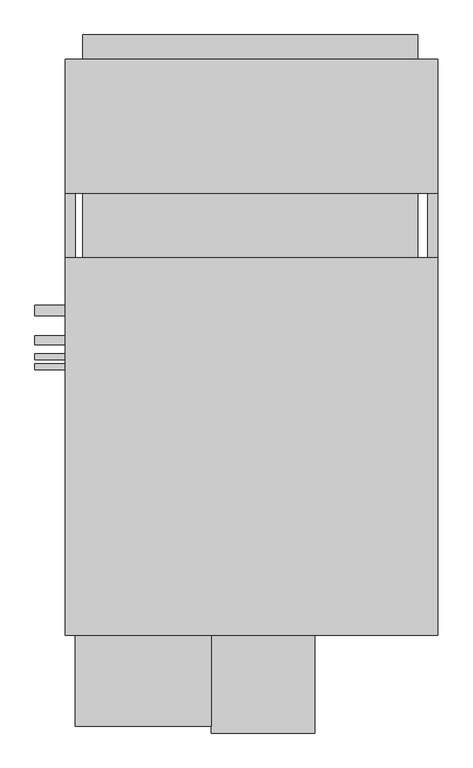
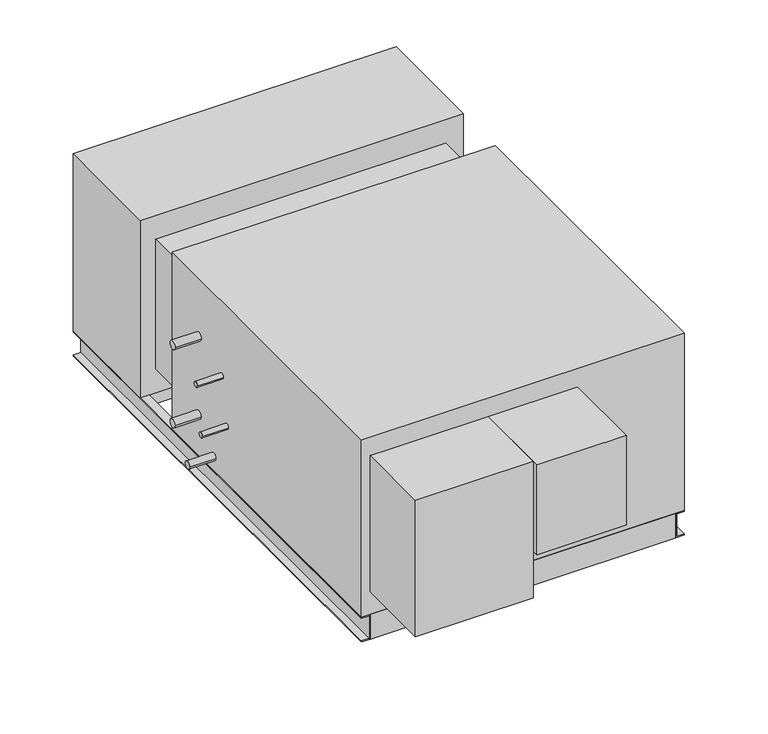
"""IFC4 building model written with IfcOpenShell, lengths in millimetres: proxy geometry, Horizontal_Direct_Drive_Blower_Coil_Unit_-_42DHA_-_CARRIER_-_4-Pipe_NFilterR_W-MixingBox_LH_2022 : Size 10 - 460v/60Hz/3Ph - 6/2 Coil."""

from ifc_helpers import new_model, si_unit, point, frame, frame_2d, origin, place, context, project, spatial, polyline, circle_curve, trimmed, segment, composite_curve, outline, extrude, source, transform, mapped, element, save


def mechanical_equipment_8ebf37a6(model_context):
    return source(origin(), model_context, "Body", "SweptSolid", [
        extrude(outline(polyline([(-177.8, 890.905), (-177.8, 687.705), (-1022.35, 687.705), (-1022.35, 890.905), (-177.8, 890.905)])), frame((0.0, 0.0, -607.06), z_axis=(0.0, 0.0, 1.0), x_axis=(1.0, 0.0, 0.0)), (0.0, 0.0, 1.0), 60.96),
        extrude(outline(polyline([(-1022.35, 1053.465), (-177.8, 1053.465), (-177.8, 992.505), (-1022.35, 992.505), (-1022.35, 1053.465)])), frame((0.0, 0.0, -279.4), z_axis=(0.0, 0.0, 1.0), x_axis=(1.0, 0.0, 0.0)), (0.0, 0.0, 1.0), 203.2),
        extrude(outline(polyline([(-127.0, 992.505), (-127.0, 654.05), (-1066.8, 654.05), (-1066.8, 992.505), (-127.0, 992.505)])), frame((0.0, 0.0, -546.1), z_axis=(0.0, 0.0, 1.0), x_axis=(1.0, 0.0, 0.0)), (0.0, 0.0, 1.0), 546.1),
        extrude(outline(polyline([(-152.4, -434.975), (-152.4, -460.375), (-1041.4, -460.375), (-1041.4, -434.975), (-152.4, -434.975)])), frame((0.0, 0.0, -622.3), z_axis=(0.0, 0.0, 1.0), x_axis=(1.0, 0.0, 0.0)), (0.0, 0.0, 1.0), 76.2),
        extrude(outline(polyline([(-152.4, 992.505), (-152.4, 967.105), (-1041.4, 967.105), (-1041.4, 992.505), (-152.4, 992.505)])), frame((0.0, 0.0, -622.3), z_axis=(0.0, 0.0, 1.0), x_axis=(1.0, 0.0, 0.0)), (0.0, 0.0, 1.0), 76.2),
        extrude(outline(polyline([(-546.1, -1041.4), (-546.1, -1066.8), (-549.275, -1066.8), (-549.275, -1044.575), (-619.125, -1044.575), (-619.125, -1066.8), (-622.3, -1066.8), (-622.3, -1041.4), (-546.1, -1041.4)])), frame((0.0, -460.375, 0.0), z_axis=(0.0, 1.0, 0.0), x_axis=(0.0, 0.0, 1.0)), (0.0, 0.0, 1.0), 1452.88),
        extrude(outline(polyline([(-546.1, -152.4), (-622.3, -152.4), (-622.3, -127.0), (-619.125, -127.0), (-619.125, -149.225), (-549.275, -149.225), (-549.275, -127.0), (-546.1, -127.0), (-546.1, -152.4)])), frame((0.0, -460.375, 0.0), z_axis=(0.0, 1.0, 0.0), x_axis=(0.0, 0.0, 1.0)), (0.0, 0.0, 1.0), 1452.88),
        extrude(outline(composite_curve([segment(trimmed(circle_curve(frame_2d((358.775, -177.8)), 12.7), [point((371.475, -177.8))], [point((346.075, -177.8))], False, "CARTESIAN"), True, "CONTINUOUS"), segment(trimmed(circle_curve(frame_2d((358.775, -177.8)), 12.7), [point((346.075, -177.8))], [point((371.475, -177.8))], False, "CARTESIAN"), True, "CONTINUOUS")], self_intersect=False)), frame((-1143.0, 0.0, 0.0), z_axis=(1.0, 0.0, 0.0), x_axis=(0.0, 1.0, 0.0)), (0.0, 0.0, 1.0), 76.2),
        extrude(outline(composite_curve([segment(trimmed(circle_curve(frame_2d((359.642288, -419.1)), 12.7), [point((372.342288, -419.1))], [point((346.942288, -419.1))], False, "CARTESIAN"), True, "CONTINUOUS"), segment(trimmed(circle_curve(frame_2d((359.642288, -419.1)), 12.7), [point((346.942288, -419.1))], [point((372.342288, -419.1))], False, "CARTESIAN"), True, "CONTINUOUS")], self_intersect=False)), frame((-1143.0, 0.0, 0.0), z_axis=(1.0, 0.0, 0.0), x_axis=(0.0, 1.0, 0.0)), (0.0, 0.0, 1.0), 76.2),
        extrude(outline(composite_curve([segment(trimmed(circle_curve(frame_2d((283.442288, -501.65)), 11.1125), [point((294.554788, -501.65))], [point((272.329788, -501.65))], False, "CARTESIAN"), True, "CONTINUOUS"), segment(trimmed(circle_curve(frame_2d((283.442288, -501.65)), 11.1125), [point((272.329788, -501.65))], [point((294.554788, -501.65))], False, "CARTESIAN"), True, "CONTINUOUS")], self_intersect=False)), frame((-1143.0, 0.0, 0.0), z_axis=(1.0, 0.0, 0.0), x_axis=(0.0, 1.0, 0.0)), (0.0, 0.0, 1.0), 76.2),
        extrude(outline(composite_curve([segment(trimmed(circle_curve(frame_2d((242.167288, -228.6)), 7.9375), [point((250.104788, -228.6))], [point((234.229788, -228.6))], False, "CARTESIAN"), True, "CONTINUOUS"), segment(trimmed(circle_curve(frame_2d((242.167288, -228.6)), 7.9375), [point((234.229788, -228.6))], [point((250.104788, -228.6))], False, "CARTESIAN"), True, "CONTINUOUS")], self_intersect=False)), frame((-1143.0, 0.0, 0.0), z_axis=(1.0, 0.0, 0.0), x_axis=(0.0, 1.0, 0.0)), (0.0, 0.0, 1.0), 76.2),
        extrude(outline(composite_curve([segment(trimmed(circle_curve(frame_2d((216.767288, -368.5792556)), 7.9375), [point((224.704788, -368.5792556))], [point((208.829788, -368.5792556))], False, "CARTESIAN"), True, "CONTINUOUS"), segment(trimmed(circle_curve(frame_2d((216.767288, -368.5792556)), 7.9375), [point((208.829788, -368.5792556))], [point((224.704788, -368.5792556))], False, "CARTESIAN"), True, "CONTINUOUS")], self_intersect=False)), frame((-1143.0, 0.0, 0.0), z_axis=(1.0, 0.0, 0.0), x_axis=(0.0, 1.0, 0.0)), (0.0, 0.0, 1.0), 76.2),
        extrude(outline(polyline([(-127.0, 492.125), (-127.0, -460.375), (-1066.8, -460.375), (-1066.8, 492.125), (-127.0, 492.125)])), frame((0.0, 0.0, -546.1), z_axis=(0.0, 0.0, 1.0), x_axis=(1.0, 0.0, 0.0)), (0.0, 0.0, 1.0), 546.1),
        extrude(outline(polyline([(-698.5, -688.975), (-1041.4, -688.975), (-1041.4, -460.375), (-698.5, -460.375), (-698.5, -688.975)])), frame((0.0, 0.0, -476.25), z_axis=(0.0, 0.0, 1.0), x_axis=(1.0, 0.0, 0.0)), (0.0, 0.0, 1.0), 419.1),
        extrude(outline(polyline([(-1022.35, 654.05), (-177.8, 654.05), (-177.8, 492.125), (-1022.35, 492.125), (-1022.35, 654.05)])), frame((0.0, 0.0, -473.075), z_axis=(0.0, 0.0, 1.0), x_axis=(1.0, 0.0, 0.0)), (0.0, 0.0, 1.0), 400.05),
        extrude(outline(polyline([(-438.15, -706.4375), (-698.5, -706.4375), (-698.5, -460.375), (-438.15, -460.375), (-438.15, -706.4375)])), frame((0.0, 0.0, -333.375), z_axis=(0.0, 0.0, 1.0), x_axis=(1.0, 0.0, 0.0)), (0.0, 0.0, 1.0), 276.225),
    ])


if __name__ == "__main__":
    model = new_model("IFC4")
    model_context = context("Model", 3, world=origin())
    ifc_project = project(units=[si_unit("LENGTHUNIT", "METRE", prefix="MILLI")], contexts=[model_context])
    site = spatial("IfcSite", under=ifc_project)
    building = spatial("IfcBuilding", under=site)
    placement = place(None, origin())
    mechanical_equipment_shape = mechanical_equipment_8ebf37a6(model_context)
    element("IfcBuildingElementProxy", 1, Name="Horizontal_Direct_Drive_Blower_Coil_Unit_-_42DHA_-_CARRIER_-_4-Pipe_NFilterR_W-MixingBox_LH_2022 : Size 10 - 460v/60Hz/3Ph - 6/2 Coil", ObjectType="Horizontal_Direct_Drive_Blower_Coil_Unit_-_42DHA_-_CARRIER_-_4-Pipe_NFilterR_W-MixingBox_LH_2022 : Size 10 - 460v/60Hz/3Ph - 6/2 Coil", at=placement, inside=building, context=model_context, shape_type="MappedRepresentation", body=[
        mapped(mechanical_equipment_shape, transform((0.0, 0.0, 0.0), x_axis=(1.0, 0.0, 0.0), y_axis=(0.0, 1.0, 0.0), z_axis=(0.0, 0.0, 1.0))),
    ])
    save(model, "model.ifc")
